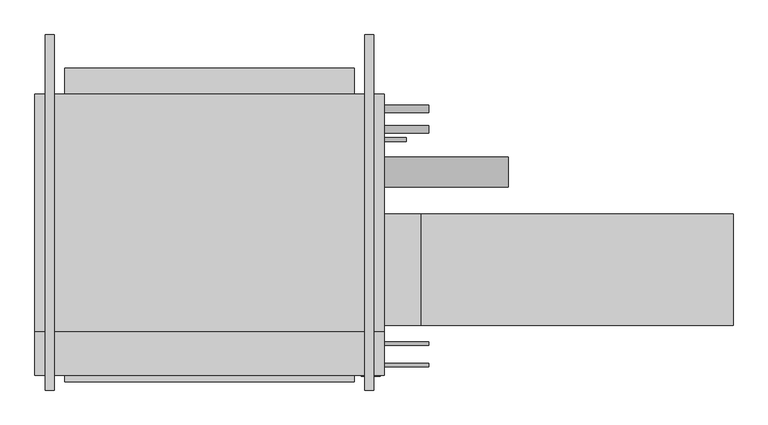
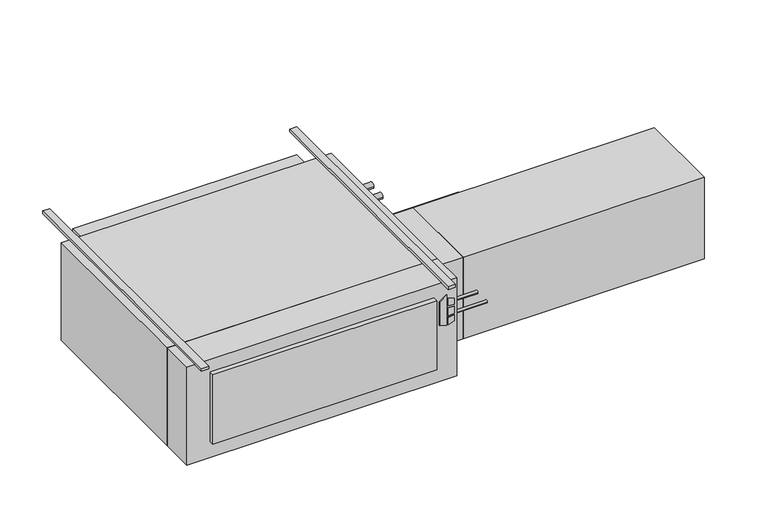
"""IFC4 building model written with IfcOpenShell, lengths in millimetres: proxy geometry."""

from ifc_helpers import new_model, si_unit, point, frame, frame_2d, origin, origin_with_axes, place, context, project, spatial, polyline, circle_curve, trimmed, segment, composite_curve, outline, extrude, source, transform, mapped, element, save


def mechanical_equipment_8bab9ec0(model_context):
    return source(origin(), model_context, "Body", "SweptSolid", [
        extrude(outline(polyline([(-193.2519297, 671.5868862), (-203.2, 703.7602728), (-61.0290756, 703.7602728), (-84.0510817, 671.5868862), (-193.2519297, 671.5868862)])), frame((0.0, -797.052, 0.0), z_axis=(0.0, 1.0, 0.0), x_axis=(0.0, 0.0, 1.0)), (0.0, 0.0, 1.0), 3.175),
        extrude(outline(polyline([(-114.2526443, 710.5186058), (-117.4550368, 736.6), (-88.2261958, 736.6), (-80.1617807, 710.5186058), (-114.2526443, 710.5186058)])), frame((0.0, -797.052, 0.0), z_axis=(0.0, 1.0, 0.0), x_axis=(0.0, 0.0, 1.0)), (0.0, 0.0, 1.0), 3.175),
        extrude(outline(polyline([(-166.1161712, 736.6), (-169.7816721, 710.5186058), (-203.2, 710.5186058), (-194.5657628, 736.6), (-166.1161712, 736.6)])), frame((0.0, -797.052, 0.0), z_axis=(0.0, 1.0, 0.0), x_axis=(0.0, 0.0, 1.0)), (0.0, 0.0, 1.0), 3.175),
        extrude(outline(polyline([(-126.8010097, 736.6), (-124.5191834, 710.5186058), (-160.4567319, 710.5186058), (-157.7154669, 736.6), (-126.8010097, 736.6)])), frame((0.0, -797.052, 0.0), z_axis=(0.0, 1.0, 0.0), x_axis=(0.0, 0.0, 1.0)), (0.0, 0.0, 1.0), 3.175),
        extrude(outline(polyline([(749.3, -793.877), (-444.5, -793.877), (-444.5, -644.525), (749.3, -644.525), (749.3, -793.877)])), frame((0.0, 0.0, -457.2), z_axis=(0.0, 0.0, 1.0), x_axis=(1.0, 0.0, 0.0)), (0.0, 0.0, 1.0), 457.2),
        extrude(outline(polyline([(647.7, -816.229), (-342.9, -816.229), (-342.9, -793.877), (647.7, -793.877), (647.7, -816.229)])), frame((0.0, 0.0, -381.0), z_axis=(0.0, 0.0, 1.0), x_axis=(1.0, 0.0, 0.0)), (0.0, 0.0, 1.0), 323.85),
        extrude(outline(polyline([(1943.1, -241.3), (1943.1, -622.3), (876.3, -622.3), (876.3, -241.3), (1943.1, -241.3)])), frame((0.0, 0.0, -431.8), z_axis=(0.0, 0.0, 1.0), x_axis=(1.0, 0.0, 0.0)), (0.0, 0.0, 1.0), 381.0),
        extrude(outline(polyline([(876.3, -241.3), (876.3, -622.3), (749.3, -622.3), (749.3, -241.3), (876.3, -241.3)])), frame((0.0, 0.0, -431.8), z_axis=(0.0, 0.0, 1.0), x_axis=(1.0, 0.0, 0.0)), (0.0, 0.0, 1.0), 381.0),
        extrude(outline(composite_curve([segment(trimmed(circle_curve(frame_2d((-758.825, -184.15)), 6.35), [point((-752.475, -184.15))], [point((-765.175, -184.15))], False, "CARTESIAN"), True, "CONTINUOUS"), segment(trimmed(circle_curve(frame_2d((-758.825, -184.15)), 6.35), [point((-765.175, -184.15))], [point((-752.475, -184.15))], False, "CARTESIAN"), True, "CONTINUOUS")], self_intersect=False)), frame((749.3, 0.0, 0.0), z_axis=(1.0, 0.0, 0.0), x_axis=(0.0, 1.0, 0.0)), (0.0, 0.0, 1.0), 152.4),
        extrude(outline(composite_curve([segment(trimmed(circle_curve(frame_2d((-685.8, -184.15)), 6.35), [point((-679.45, -184.15))], [point((-692.15, -184.15))], False, "CARTESIAN"), True, "CONTINUOUS"), segment(trimmed(circle_curve(frame_2d((-685.8, -184.15)), 6.35), [point((-692.15, -184.15))], [point((-679.45, -184.15))], False, "CARTESIAN"), True, "CONTINUOUS")], self_intersect=False)), frame((749.3, 0.0, 0.0), z_axis=(1.0, 0.0, 0.0), x_axis=(0.0, 1.0, 0.0)), (0.0, 0.0, 1.0), 152.4),
        extrude(outline(composite_curve([segment(trimmed(circle_curve(frame_2d((117.475, -171.45)), 12.7), [point((130.175, -171.45))], [point((104.775, -171.45))], False, "CARTESIAN"), True, "CONTINUOUS"), segment(trimmed(circle_curve(frame_2d((117.475, -171.45)), 12.7), [point((104.775, -171.45))], [point((130.175, -171.45))], False, "CARTESIAN"), True, "CONTINUOUS")], self_intersect=False)), frame((749.3, 0.0, 0.0), z_axis=(1.0, 0.0, 0.0), x_axis=(0.0, 1.0, 0.0)), (0.0, 0.0, 1.0), 152.4),
        extrude(outline(composite_curve([segment(trimmed(circle_curve(frame_2d((47.625, -177.8)), 12.7), [point((60.325, -177.8))], [point((34.925, -177.8))], False, "CARTESIAN"), True, "CONTINUOUS"), segment(trimmed(circle_curve(frame_2d((47.625, -177.8)), 12.7), [point((34.925, -177.8))], [point((60.325, -177.8))], False, "CARTESIAN"), True, "CONTINUOUS")], self_intersect=False)), frame((749.3, 0.0, 0.0), z_axis=(1.0, 0.0, 0.0), x_axis=(0.0, 1.0, 0.0)), (0.0, 0.0, 1.0), 152.4),
        extrude(outline(composite_curve([segment(trimmed(circle_curve(frame_2d((-98.4896516, -228.6360165)), 50.8), [point((-47.6896516, -228.6360165))], [point((-149.2896516, -228.6360165))], False, "CARTESIAN"), True, "CONTINUOUS"), segment(trimmed(circle_curve(frame_2d((-98.4896516, -228.6360165)), 50.8), [point((-149.2896516, -228.6360165))], [point((-47.6896516, -228.6360165))], False, "CARTESIAN"), True, "CONTINUOUS")], self_intersect=False)), frame((749.3, 0.0, 0.0), z_axis=(1.0, 0.0, 0.0), x_axis=(0.0, 1.0, 0.0)), (0.0, 0.0, 1.0), 425.45),
        extrude(outline(composite_curve([segment(trimmed(circle_curve(frame_2d((12.7, -409.575)), 6.35), [point((19.05, -409.575))], [point((6.35, -409.575))], False, "CARTESIAN"), True, "CONTINUOUS"), segment(trimmed(circle_curve(frame_2d((12.7, -409.575)), 6.35), [point((6.35, -409.575))], [point((19.05, -409.575))], False, "CARTESIAN"), True, "CONTINUOUS")], self_intersect=False)), frame((749.3, 0.0, 0.0), z_axis=(1.0, 0.0, 0.0), x_axis=(0.0, 1.0, 0.0)), (0.0, 0.0, 1.0), 76.2),
        extrude(outline(polyline([(749.3, 168.275), (749.3, -644.525), (-444.5, -644.525), (-444.5, 168.275), (749.3, 168.275)])), frame((0.0, 0.0, -457.2), z_axis=(0.0, 0.0, 1.0), x_axis=(1.0, 0.0, 0.0)), (0.0, 0.0, 1.0), 457.2),
        extrude(outline(polyline([(-342.9, 257.175), (647.7, 257.175), (647.7, 168.275), (-342.9, 168.275), (-342.9, 257.175)])), frame((0.0, 0.0, -381.0), z_axis=(0.0, 0.0, 1.0), x_axis=(1.0, 0.0, 0.0)), (0.0, 0.0, 1.0), 355.6),
        extrude(outline(polyline([(-377.825, 371.475), (-377.825, -844.677), (-409.575, -844.677), (-409.575, 371.475), (-377.825, 371.475)])), origin_with_axes(), (0.0, 0.0, 1.0), 12.7),
        extrude(outline(polyline([(714.375, 371.475), (714.375, -844.677), (682.625, -844.677), (682.625, 371.475), (714.375, 371.475)])), origin_with_axes(), (0.0, 0.0, 1.0), 12.7),
    ])


if __name__ == "__main__":
    model = new_model("IFC4")
    model_context = context("Model", 3, world=origin())
    ifc_project = project(units=[si_unit("LENGTHUNIT", "METRE", prefix="MILLI")], contexts=[model_context])
    site = spatial("IfcSite", under=ifc_project)
    building = spatial("IfcBuilding", under=site)
    placement = place(None, origin())
    mechanical_equipment_shape = mechanical_equipment_8bab9ec0(model_context)
    element("IfcBuildingElementProxy", 1, Name="High_Capacity_Horizontal_Cabinet_Fan_Coil_Unit_-_HTY_-_IEC_-_4-Pipe_WO-Attenuator_RH Side_2022 : Size 16 - 115v/60Hz/1Ph - 4/1 Coil - 4\" AirIn", ObjectType="High_Capacity_Horizontal_Cabinet_Fan_Coil_Unit_-_HTY_-_IEC_-_4-Pipe_WO-Attenuator_RH Side_2022 : Size 16 - 115v/60Hz/1Ph - 4/1 Coil - 4\" AirIn", at=placement, inside=building, context=model_context, shape_type="MappedRepresentation", body=[
        mapped(mechanical_equipment_shape, transform((0.0, 0.0, 0.0), x_axis=(1.0, 0.0, 0.0), y_axis=(0.0, 1.0, 0.0), z_axis=(0.0, 0.0, 1.0))),
    ])
    save(model, "model.ifc")
